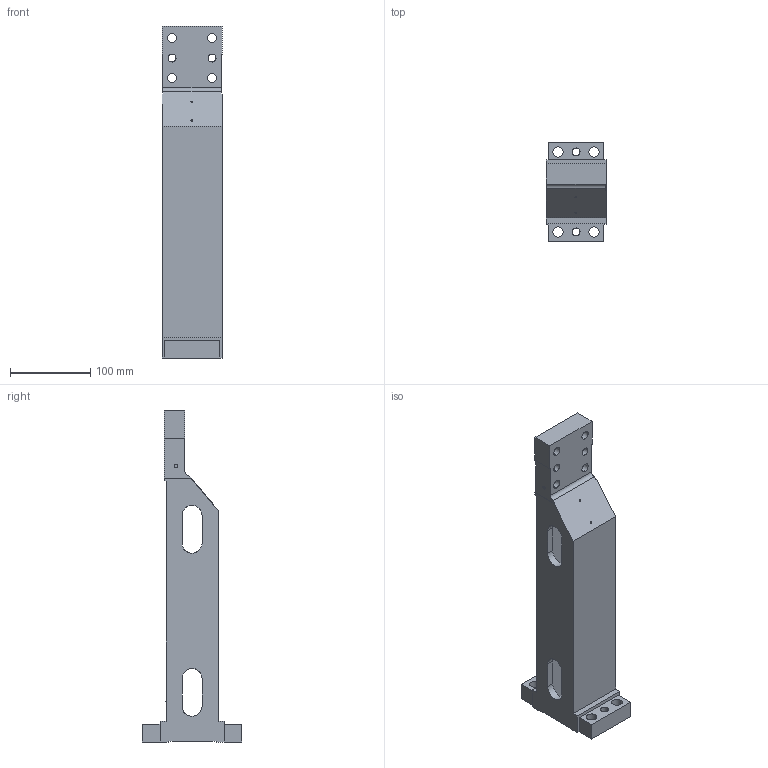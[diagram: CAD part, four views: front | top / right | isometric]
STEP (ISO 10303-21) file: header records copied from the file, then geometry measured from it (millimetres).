
FILE_DESCRIPTION (( 'STEP AP203' ), '1' );
FILE_NAME ('Clampact_KLP-EU-653-H350.STEP', '2023-07-16T13:16:37', ( '' ), ( '' ), 'SwSTEP 2.0', 'SolidWorks 2018', '' );
FILE_SCHEMA (( 'CONFIG_CONTROL_DESIGN' ));
Length unit declared in the file: millimetre
Products named in the file (1): Clampact_KLP-EU-653-H350
Bounding box: 75 x 124 x 415 mm (x, y, z)
Volume: 878716 mm3; surface area: 194865.7 mm2
Topology: 1 solids, 1 shells, 408 faces, 1131 edges, 756 vertices
Faces by surface type: plane 212, bspline 155, cylinder 41
Entity records: 21728 total; most frequent: CARTESIAN_POINT 12260, ORIENTED_EDGE 2262, DIRECTION 1318, EDGE_CURVE 1131, VERTEX_POINT 756, VECTOR 728, LINE 728, EDGE_LOOP 475
